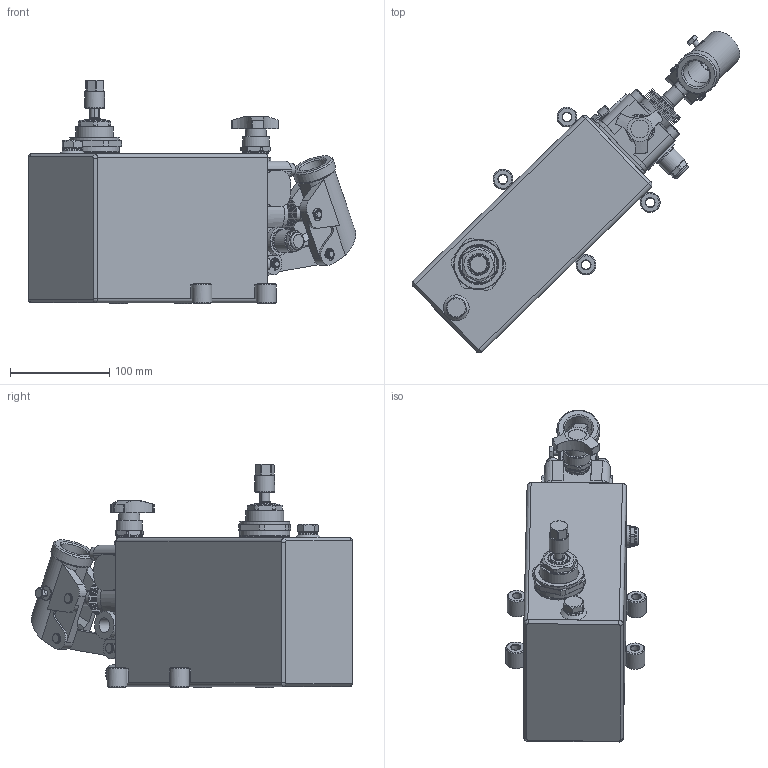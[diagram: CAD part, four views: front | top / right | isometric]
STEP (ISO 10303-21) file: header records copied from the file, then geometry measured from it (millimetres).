
FILE_DESCRIPTION(/* description */ ('Unknown'),/* implementation_level */ '2;1');
FILE_NAME(/* name */ 'ZES---SE--SR03',/* time_stamp */ '2024-11-29T15:54:57+01:00',/* author */ ('Unknown'),/* organization */ ('Unknown'),/* preprocessor_version */ 'ST-DEVELOPER v19.4',/* originating_system */ 'Solid Edge',/* authorisation */ 'Unknown');
FILE_SCHEMA (('AUTOMOTIVE_DESIGN {1 0 10303 214 3 1 1}'));
Products named in the file (1): ZES---SE--SR03
Bounding box: 329.35 x 322.99 x 224.78 mm (x, y, z)
Volume: 1278572.3 mm3; surface area: 481846.5 mm2
Topology: 8 solids, 8 shells, 3503 faces, 9398 edges, 6011 vertices
Faces by surface type: plane 2400, cylinder 632, cone 222, torus 141, bspline 92, sphere 16
Full cylindrical faces by diameter (mm): 1.998 x1, 3.596 x2, 3.996 x6, 4.995 x5, 5.095 x5, 5.794 x1, 5.994 x9, 6.494 x2, 6.993 x1, 7.792 x6, 7.942 x1, 7.992 x4, 8.092 x6, 8.368 x3, 8.492 x1, 8.557 x8, 8.991 x6, 9.64 x1, 9.99 x12, 10.04 x1, 10.19 x1, 10.489 x2, 10.869 x4, 10.889 x4, 10.989 x3, 11.434 x1, 11.489 x1, 11.788 x2, 11.988 x3, 12.088 x1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
Entity records: 135510 total; most frequent: CARTESIAN_POINT 26083, ORIENTED_EDGE 17418, DIRECTION 17130, EDGE_CURVE 8709, LINE 6058, VECTOR 6058, VERTEX_POINT 5766, AXIS2_PLACEMENT_3D 5536
